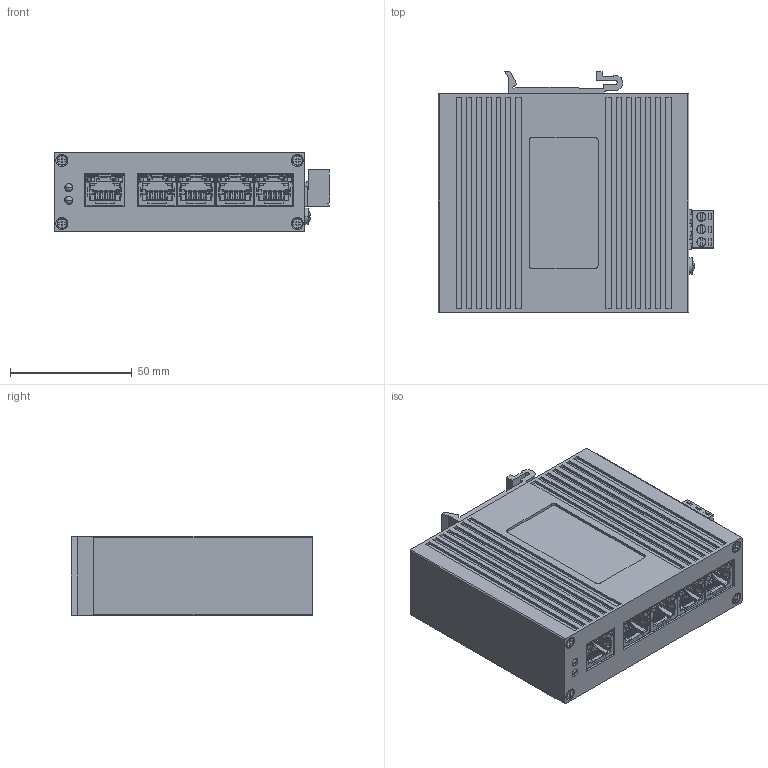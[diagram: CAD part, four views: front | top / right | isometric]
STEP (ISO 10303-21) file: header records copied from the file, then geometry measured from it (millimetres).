
FILE_DESCRIPTION((''),'2;1');
FILE_NAME('IES-1050GE_ASM','2023-02-10T15:34:12',('Administrator'),('yulong DESIGN'),'CREO PARAMETRIC BY PTC INC, 2021023','CREO PARAMETRIC BY PTC INC, 2021023','');
FILE_SCHEMA(('AUTOMOTIVE_DESIGN { 1 0 10303 214 1 1 1 1 }'));
Length unit declared in the file: millimetre
Products named in the file (4): IES-1050GE; MSBR-1_6; 1050GE-CT; IES-1050GE_ASM
Assembly tree (7 placements, depth 2):
  IES-1050GE_ASM
    IES-1050GE
    MSBR-1_6  x5
    1050GE-CT
Bounding box: 113.3 x 99.28 x 32.7 mm (x, y, z)
Volume: 293842.7 mm3; surface area: 72087 mm2
Topology: 7 solids, 7 shells, 5559 faces, 15430 edges, 9824 vertices
Faces by surface type: plane 3575, cylinder 1468, torus 320, bspline 92, cone 60, sphere 44
Entity records: 63169 total; most frequent: CARTESIAN_POINT 10511, ORIENTED_EDGE 8932, DIRECTION 8626, EDGE_CURVE 4466, VECTOR 3338, LINE 3338, VERTEX_POINT 2880, AXIS2_PLACEMENT_3D 2644
